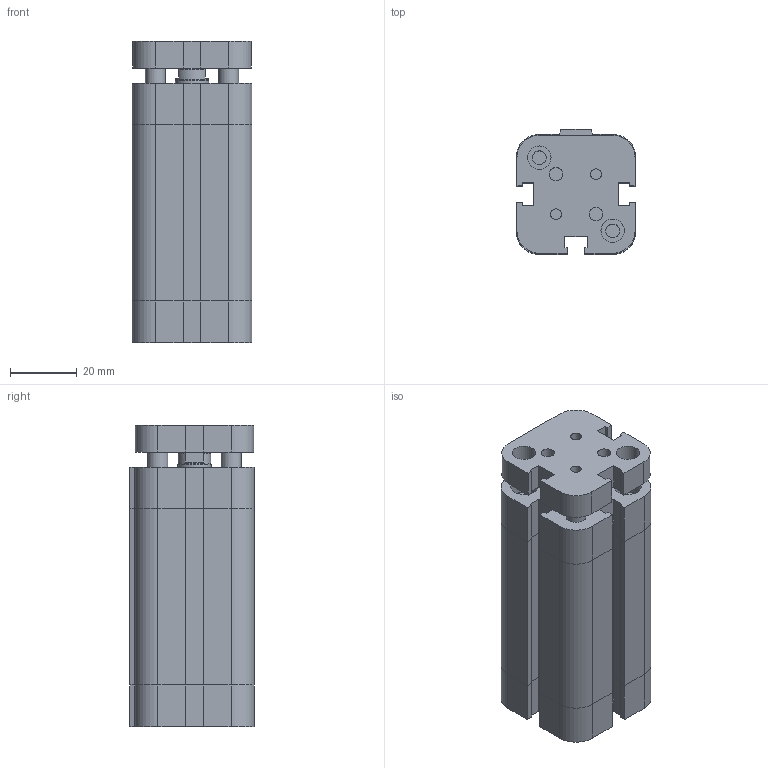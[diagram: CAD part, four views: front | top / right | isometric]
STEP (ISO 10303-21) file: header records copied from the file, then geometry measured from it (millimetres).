
FILE_DESCRIPTION((''),'2;1');
FILE_NAME('I:\Area Tecnica\Disegni\VARIE-3D\Componenti\EUROPE\15##_###_####_07_#\1581_20_0040_07_1.iam.stp','2009-04-20T15:20:13',(''),(''),'Autodesk Inventor 2009','Autodesk Inventor 2009','');
FILE_SCHEMA(('AUTOMOTIVE_DESIGN { 1 0 10303 214 1 1 1 1 }'));
Length unit declared in the file: millimetre
Products named in the file (3): 1581_20_0040_07_1; 1581_20_0040_07_1_C; 1561_20_0040_07_1_SA
Assembly tree (2 placements, depth 2):
  1581_20_0040_07_1
    1581_20_0040_07_1_C
    1561_20_0040_07_1_SA
Bounding box: 36 x 37.5 x 90.5 mm (x, y, z)
Volume: 99338.7 mm3; surface area: 28972.5 mm2
Topology: 2 solids, 2 shells, 206 faces, 483 edges, 301 vertices
Faces by surface type: plane 135, bspline 44, cylinder 21, cone 6
Full cylindrical faces by diameter (mm): 6 x2, 9.8 x2, 10 x1
Entity records: 6055 total; most frequent: CARTESIAN_POINT 1405, ORIENTED_EDGE 876, DIRECTION 854, EDGE_CURVE 438, VECTOR 340, LINE 340, VERTEX_POINT 286, EDGE_LOOP 268
